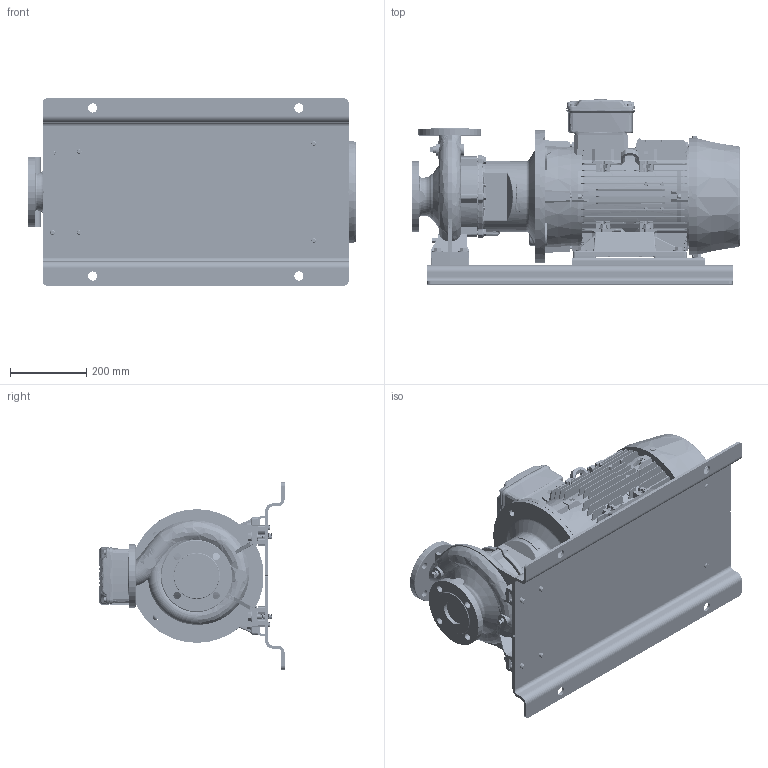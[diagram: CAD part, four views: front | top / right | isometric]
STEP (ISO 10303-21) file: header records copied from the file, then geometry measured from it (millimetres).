
FILE_DESCRIPTION (( 'STEP AP214' ), '1' );
FILE_NAME ('GSD2 50-160_11.0 & 15.0_(160ML)_W21_BP.STEP', '2024-04-26T05:55:30', ( '' ), ( '' ), 'SwSTEP 2.0', 'SolidWorks 2019', '' );
FILE_SCHEMA (( 'AUTOMOTIVE_DESIGN' ));
Length unit declared in the file: millimetre
Products named in the file (19): Parametric bolt_SFT-A309B; Parametric bolt and washer_SFT-A301B; 50-160-160M_L; CGS11-5301_2_3_4_5_CGS11-5301; Parametric bolt and washer_SFT-A309B; 210_254 x 20 - 271472113; 160M_L_ALIE3_W21T_B35; Parametric Flat Washer_M12; Parametric bolt_SFT-A301B; GSD2  50-160_11.0 & 15.0_(160ML)_W21_BP; N5S3 GSDA-533 F11832924-00
Assembly tree (37 placements, depth 3):
  GSD2  50-160_11.0 & 15.0_(160ML)_W21_BP
    50-160-160M_L
    N5S3 GSDA-533 F11832924-00
    CGS11-5301_2_3_4_5_CGS11-5301  x2
    210_254 x 20 - 271472113  x2
    Parametric bolt and washer_SFT-A309B
      Parametric bolt_SFT-A309B
      Parametric Flat Washer_M12
    Parametric bolt and washer_SFT-A309B
      Parametric bolt_SFT-A309B
      Parametric Flat Washer_M12
    Parametric bolt and washer_SFT-A309B
      Parametric bolt_SFT-A309B
      Parametric Flat Washer_M12
    Parametric bolt and washer_SFT-A309B
      Parametric bolt_SFT-A309B
      Parametric Flat Washer_M12
    Parametric bolt and washer_SFT-A301B
      Parametric bolt_SFT-A301B
      Parametric Flat Washer_M12
    Parametric bolt and washer_SFT-A301B
      Parametric bolt_SFT-A301B
      Parametric Flat Washer_M12
    Parametric bolt and washer_SFT-A301B
      Parametric bolt_SFT-A301B
      Parametric Flat Washer_M12
    Parametric bolt and washer_SFT-A301B
      Parametric bolt_SFT-A301B
      Parametric Flat Washer_M12
    Parametric bolt and washer_SFT-A301B
      Parametric bolt_SFT-A301B
      Parametric Flat Washer_M12
    Parametric bolt and washer_SFT-A301B
      Parametric bolt_SFT-A301B
      Parametric Flat Washer_M12
    160M_L_ALIE3_W21T_B35
Bounding box: 860.3 x 484.5 x 490 mm (x, y, z)
Volume: 46168564.6 mm3; surface area: 3735792.2 mm2
Topology: 65 solids, 71 shells, 6303 faces, 16405 edges, 10655 vertices
Faces by surface type: plane 3769, cylinder 1271, cone 545, bspline 453, torus 241, sphere 24
Entity records: 277706 total; most frequent: CARTESIAN_POINT 79100, ORIENTED_EDGE 29986, DIRECTION 25516, EDGE_CURVE 14993, VERTEX_POINT 9759, LINE 9578, VECTOR 9578, AXIS2_PLACEMENT_3D 7969
